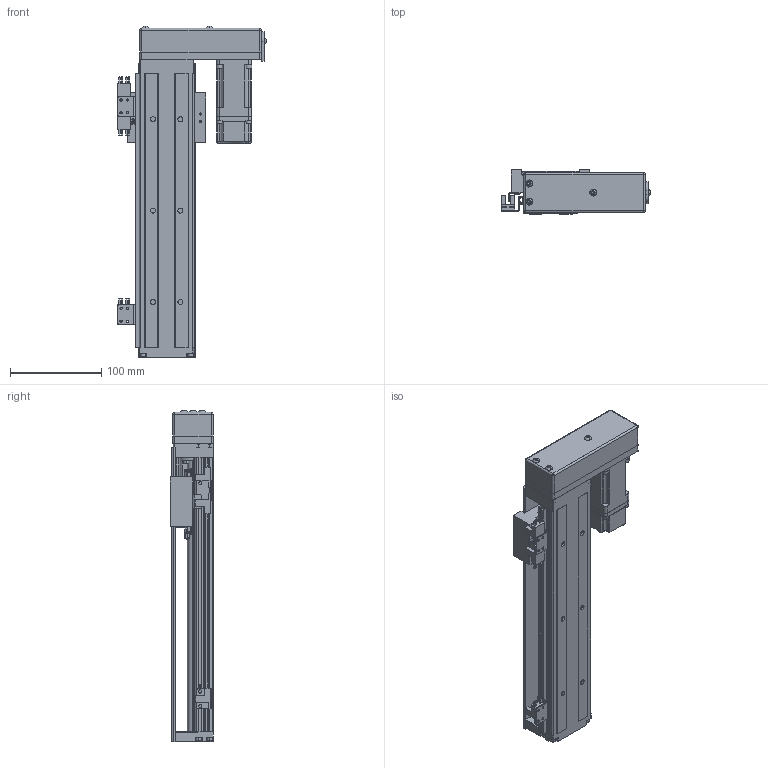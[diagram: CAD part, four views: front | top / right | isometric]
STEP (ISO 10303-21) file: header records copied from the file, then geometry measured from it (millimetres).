
FILE_DESCRIPTION (( 'STEP AP214' ), '1' );
FILE_NAME ('SFKK60-300A1-HL0C.STEP', '2022-05-03T07:54:30', ( '微软用户' ), ( '微软中国' ), 'SwSTEP 2.0', 'SolidWorks 2018', '' );
FILE_SCHEMA (( 'AUTOMOTIVE_DESIGN' ));
Length unit declared in the file: millimetre
Products named in the file (12): 蚐郲; SFKK60-LR 憤癹寢耋_300; SX674嫖萇羲壽; SFKK60-H0_300; 带盖挡光片：KK-60-S2-D1; SFKK-60-CU_300; SFKK60-300A1-HL0C; 极限轨道与开关固定座组合_300; 开关固定座：KK-674S2-F; SFKK60-H0-P10侂狟100W耜蚾; SFKK60-A1-C; hexagon socket countersunk head screws gb_GB_FASTENER_SCREWS_HSCHS M3X8-N
Assembly tree (17 placements, depth 3):
  SFKK60-300A1-HL0C
    SFKK60-H0_300
    SFKK60-A1-C
    蚐郲
    SFKK-60-CU_300
    hexagon socket countersunk head screws gb_GB_FASTENER_SCREWS_HSCHS M3X8-N  x4
    带盖挡光片：KK-60-S2-D1
    极限轨道与开关固定座组合_300
      SFKK60-LR 憤癹寢耋_300
      开关固定座：KK-674S2-F  x2
    SX674嫖萇羲壽  x3
    SFKK60-H0-P10侂狟100W耜蚾
Bounding box: 162.2 x 48 x 362.7 mm (x, y, z)
Volume: 471426.6 mm3; surface area: 291119.5 mm2
Topology: 40 solids, 69 shells, 4225 faces, 10569 edges, 6542 vertices
Faces by surface type: cylinder 1636, plane 1490, cone 891, torus 91, bspline 91, sphere 26
Entity records: 166184 total; most frequent: CARTESIAN_POINT 29579, DIRECTION 21041, ORIENTED_EDGE 19846, EDGE_CURVE 9985, AXIS2_PLACEMENT_3D 7809, VERTEX_POINT 6245, VECTOR 5423, LINE 5423
